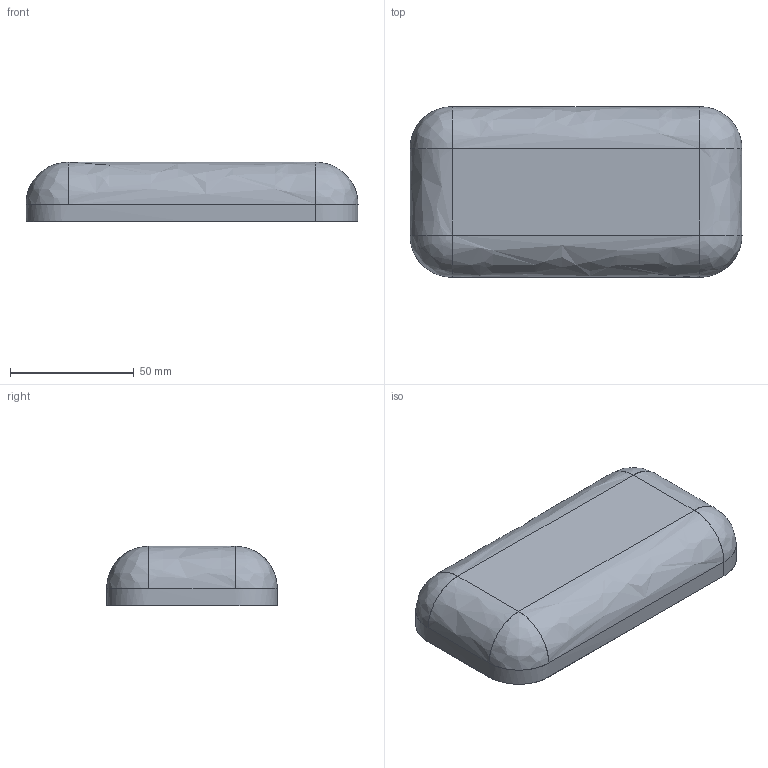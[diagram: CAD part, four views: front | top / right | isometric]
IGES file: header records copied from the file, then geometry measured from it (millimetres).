
Global section: file name: C:\Users\ronysch.boss\Documents\fabacademy_2017\week_14\rony_19.igs; native system: Rhinoceros ( Jun  9 2014 ); preprocessor: Trout Lake IGES 012 Jun  9 2014; date: 170505.082510; units: millimetre
Bounding box: 134.06 x 68.83 x 23.99 mm (x, y, z)
Surface area: 24118.5 mm2 (no closed solid volume)
Topology: 0 solids, 0 shells, 12 faces, 89 edges, 85 vertices
Faces by surface type: bspline 12
